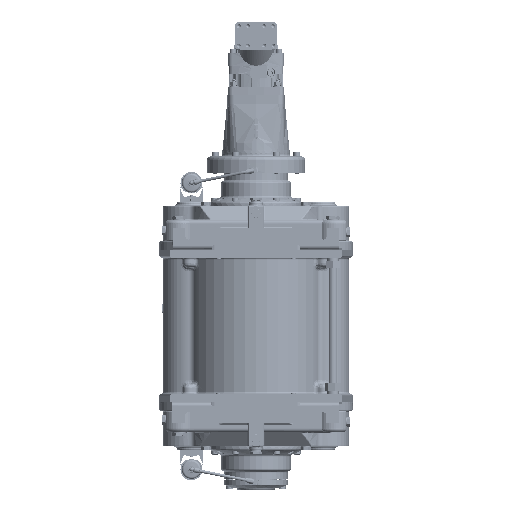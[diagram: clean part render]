
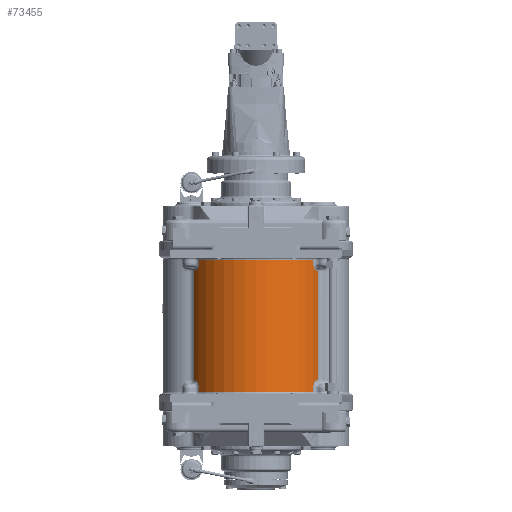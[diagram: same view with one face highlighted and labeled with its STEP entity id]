
A CAD part, front view. The second image highlights one B-rep face of the part: STEP entity #73455.
In plain terms, the highlighted cylindrical face has radius 180.5 mm (diameter 361 mm), a partial arc.
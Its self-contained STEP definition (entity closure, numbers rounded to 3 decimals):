
#5377=FACE_OUTER_BOUND('',#9764,.T.);
#9764=EDGE_LOOP('',(#48566,#48567,#48568,#48569,#48570,#48571,#48572,#48573,
#48574,#48575,#48576,#48577,#48578,#48579,#48580,#48581));
#14417=B_SPLINE_CURVE_WITH_KNOTS('',3,(#108656,#108657,#108658,#108659,
#108660,#108661,#108662),.UNSPECIFIED.,.F.,.F.,(4,1,1,1,4),(-3.142,
-2.244,-1.347,-0.898,0.),
 .UNSPECIFIED.);
#14419=B_SPLINE_CURVE_WITH_KNOTS('',3,(#108822,#108823,#108824,#108825,
#108826,#108827,#108828),.UNSPECIFIED.,.F.,.F.,(4,1,1,1,4),(-3.142,
-2.244,-1.347,-0.898,0.),.UNSPECIFIED.);
#14426=B_SPLINE_CURVE_WITH_KNOTS('',3,(#109054,#109055,#109056,#109057,
#109058,#109059,#109060),.UNSPECIFIED.,.F.,.F.,(4,1,1,1,4),(-3.142,
-2.693,-1.796,-0.898,0.),
 .UNSPECIFIED.);
#14429=B_SPLINE_CURVE_WITH_KNOTS('',3,(#109184,#109185,#109186,#109187,
#109188,#109189,#109190),.UNSPECIFIED.,.F.,.F.,(4,1,1,1,4),(-3.142,
-2.244,-1.347,-0.898,0.),
 .UNSPECIFIED.);
#16314=CIRCLE('',#78780,180.5);
#16392=CIRCLE('',#78903,180.5);
#16485=CIRCLE('',#79065,180.5);
#16492=CIRCLE('',#79079,180.5);
#16510=CIRCLE('',#79106,180.5);
#16520=CIRCLE('',#79120,180.5);
#19835=LINE('',#108665,#24587);
#19845=LINE('',#108842,#24597);
#19853=LINE('',#108965,#24605);
#19859=LINE('',#109074,#24611);
#19865=LINE('',#109191,#24617);
#19866=LINE('',#109192,#24618);
#24587=VECTOR('',#87272,10.);
#24597=VECTOR('',#87332,10.);
#24605=VECTOR('',#87382,10.);
#24611=VECTOR('',#87400,10.);
#24617=VECTOR('',#87446,10.);
#24618=VECTOR('',#87447,10.);
#29439=VERTEX_POINT('',#106924);
#29440=VERTEX_POINT('',#106928);
#29505=VERTEX_POINT('',#107967);
#29506=VERTEX_POINT('',#107971);
#29553=VERTEX_POINT('',#108653);
#29554=VERTEX_POINT('',#108655);
#29563=VERTEX_POINT('',#108765);
#29564=VERTEX_POINT('',#108820);
#29565=VERTEX_POINT('',#108821);
#29573=VERTEX_POINT('',#108910);
#29581=VERTEX_POINT('',#108963);
#29588=VERTEX_POINT('',#109052);
#29589=VERTEX_POINT('',#109053);
#29595=VERTEX_POINT('',#109132);
#29601=VERTEX_POINT('',#109181);
#29602=VERTEX_POINT('',#109183);
#36594=EDGE_CURVE('',#29439,#29440,#16314,.T.);
#36730=EDGE_CURVE('',#29505,#29506,#16392,.T.);
#36858=EDGE_CURVE('',#29553,#29554,#14417,.T.);
#36860=EDGE_CURVE('',#29440,#29553,#19835,.T.);
#36879=EDGE_CURVE('',#29554,#29563,#16485,.T.);
#36883=EDGE_CURVE('',#29564,#29565,#14419,.T.);
#36888=EDGE_CURVE('',#29565,#29439,#19845,.T.);
#36896=EDGE_CURVE('',#29573,#29564,#16492,.T.);
#36913=EDGE_CURVE('',#29573,#29581,#19853,.T.);
#36922=EDGE_CURVE('',#29588,#29589,#14426,.T.);
#36927=EDGE_CURVE('',#29589,#29505,#19859,.T.);
#36933=EDGE_CURVE('',#29595,#29588,#16510,.T.);
#36947=EDGE_CURVE('',#29601,#29581,#16520,.T.);
#36948=EDGE_CURVE('',#29602,#29601,#14429,.T.);
#36949=EDGE_CURVE('',#29506,#29602,#19865,.T.);
#36950=EDGE_CURVE('',#29563,#29595,#19866,.T.);
#48566=ORIENTED_EDGE('',*,*,#36594,.F.);
#48567=ORIENTED_EDGE('',*,*,#36888,.F.);
#48568=ORIENTED_EDGE('',*,*,#36883,.F.);
#48569=ORIENTED_EDGE('',*,*,#36896,.F.);
#48570=ORIENTED_EDGE('',*,*,#36913,.T.);
#48571=ORIENTED_EDGE('',*,*,#36947,.F.);
#48572=ORIENTED_EDGE('',*,*,#36948,.F.);
#48573=ORIENTED_EDGE('',*,*,#36949,.F.);
#48574=ORIENTED_EDGE('',*,*,#36730,.F.);
#48575=ORIENTED_EDGE('',*,*,#36927,.F.);
#48576=ORIENTED_EDGE('',*,*,#36922,.F.);
#48577=ORIENTED_EDGE('',*,*,#36933,.F.);
#48578=ORIENTED_EDGE('',*,*,#36950,.F.);
#48579=ORIENTED_EDGE('',*,*,#36879,.F.);
#48580=ORIENTED_EDGE('',*,*,#36858,.F.);
#48581=ORIENTED_EDGE('',*,*,#36860,.F.);
#69039=CYLINDRICAL_SURFACE('',#79119,180.5);
#73455=ADVANCED_FACE('',(#5377),#69039,.T.);
#78780=AXIS2_PLACEMENT_3D('',#106930,#86670,#86671);
#78903=AXIS2_PLACEMENT_3D('',#107973,#86948,#86949);
#79065=AXIS2_PLACEMENT_3D('',#108770,#87311,#87312);
#79079=AXIS2_PLACEMENT_3D('',#108912,#87345,#87346);
#79106=AXIS2_PLACEMENT_3D('',#109134,#87412,#87413);
#79119=AXIS2_PLACEMENT_3D('',#109180,#87442,#87443);
#79120=AXIS2_PLACEMENT_3D('',#109182,#87444,#87445);
#86670=DIRECTION('center_axis',(0.,0.,
1.));
#86671=DIRECTION('ref_axis',(0.,-1.,0.));
#86948=DIRECTION('center_axis',(0.,0.,
-1.));
#86949=DIRECTION('ref_axis',(0.,-1.,0.));
#87272=DIRECTION('',(0.,0.,-1.));
#87311=DIRECTION('center_axis',(0.,0.,
1.));
#87312=DIRECTION('ref_axis',(0.872,-0.489,0.));
#87332=DIRECTION('',(0.,0.,1.));
#87345=DIRECTION('center_axis',(0.,0.,
1.));
#87346=DIRECTION('ref_axis',(-0.872,-0.489,0.));
#87382=DIRECTION('',(0.,0.,-1.));
#87400=DIRECTION('',(0.,0.,-1.));
#87412=DIRECTION('center_axis',(0.,0.,
-1.));
#87413=DIRECTION('ref_axis',(0.872,-0.489,0.));
#87442=DIRECTION('center_axis',(0.,0.,
-1.));
#87443=DIRECTION('ref_axis',(0.891,-0.454,0.));
#87444=DIRECTION('center_axis',(0.,0.,
-1.));
#87445=DIRECTION('ref_axis',(-0.872,-0.489,0.));
#87446=DIRECTION('',(0.,0.,1.));
#87447=DIRECTION('',(0.,0.,-1.));
#106924=CARTESIAN_POINT('',(-148.662,-102.371,172.));
#106928=CARTESIAN_POINT('',(148.662,-102.371,172.));
#106930=CARTESIAN_POINT('Origin',(0.,0.,
172.));
#107967=CARTESIAN_POINT('',(148.662,-102.371,-172.));
#107971=CARTESIAN_POINT('',(-148.662,-102.371,-172.));
#107973=CARTESIAN_POINT('Origin',(0.,0.,
-172.));
#108653=CARTESIAN_POINT('',(148.662,-102.371,162.));
#108655=CARTESIAN_POINT('',(158.576,-86.221,142.));
#108656=CARTESIAN_POINT('Ctrl Pts',(148.662,-102.371,
162.));
#108657=CARTESIAN_POINT('Ctrl Pts',(148.662,-102.371,
159.007));
#108658=CARTESIAN_POINT('Ctrl Pts',(149.404,-101.308,153.024));
#108659=CARTESIAN_POINT('Ctrl Pts',(151.912,-97.529,
147.031));
#108660=CARTESIAN_POINT('Ctrl Pts',(155.097,-92.393,
143.027));
#108661=CARTESIAN_POINT('Ctrl Pts',(157.221,-88.712,
142.));
#108662=CARTESIAN_POINT('Ctrl Pts',(158.576,-86.221,142.));
#108665=CARTESIAN_POINT('',(148.662,-102.371,0.));
#108765=CARTESIAN_POINT('',(160.817,-81.965,142.));
#108770=CARTESIAN_POINT('Origin',(0.,0.,
142.));
#108820=CARTESIAN_POINT('',(-158.576,-86.221,142.));
#108821=CARTESIAN_POINT('',(-148.662,-102.371,162.));
#108822=CARTESIAN_POINT('Ctrl Pts',(-158.576,-86.221,142.));
#108823=CARTESIAN_POINT('Ctrl Pts',(-157.221,-88.712,
142.));
#108824=CARTESIAN_POINT('Ctrl Pts',(-154.386,-93.625,
143.364));
#108825=CARTESIAN_POINT('Ctrl Pts',(-151.329,-98.412,
148.148));
#108826=CARTESIAN_POINT('Ctrl Pts',(-149.22,-101.57,
154.524));
#108827=CARTESIAN_POINT('Ctrl Pts',(-148.662,-102.371,
159.007));
#108828=CARTESIAN_POINT('Ctrl Pts',(-148.662,-102.371,
162.));
#108842=CARTESIAN_POINT('',(-148.662,-102.371,0.));
#108910=CARTESIAN_POINT('',(-160.817,-81.965,142.));
#108912=CARTESIAN_POINT('Origin',(0.,0.,
142.));
#108963=CARTESIAN_POINT('',(-160.817,-81.965,-142.));
#108965=CARTESIAN_POINT('',(-160.817,-81.965,0.));
#109052=CARTESIAN_POINT('',(158.576,-86.221,-142.));
#109053=CARTESIAN_POINT('',(148.662,-102.371,-162.));
#109054=CARTESIAN_POINT('Ctrl Pts',(158.576,-86.221,-142.));
#109055=CARTESIAN_POINT('Ctrl Pts',(157.898,-87.466,
-142.));
#109056=CARTESIAN_POINT('Ctrl Pts',(155.823,-91.18,-142.5));
#109057=CARTESIAN_POINT('Ctrl Pts',(152.415,-96.776,
-145.827));
#109058=CARTESIAN_POINT('Ctrl Pts',(149.404,-101.307,
-153.025));
#109059=CARTESIAN_POINT('Ctrl Pts',(148.662,-102.371,
-159.007));
#109060=CARTESIAN_POINT('Ctrl Pts',(148.662,-102.371,
-162.));
#109074=CARTESIAN_POINT('',(148.662,-102.371,0.));
#109132=CARTESIAN_POINT('',(160.817,-81.965,-142.));
#109134=CARTESIAN_POINT('Origin',(0.,0.,
-142.));
#109180=CARTESIAN_POINT('Origin',(0.,0.,0.));
#109181=CARTESIAN_POINT('',(-158.576,-86.221,-142.));
#109182=CARTESIAN_POINT('Origin',(0.,0.,
-142.));
#109183=CARTESIAN_POINT('',(-148.662,-102.371,-162.));
#109184=CARTESIAN_POINT('Ctrl Pts',(-148.662,-102.371,
-162.));
#109185=CARTESIAN_POINT('Ctrl Pts',(-148.662,-102.371,
-159.007));
#109186=CARTESIAN_POINT('Ctrl Pts',(-149.404,-101.308,-153.024));
#109187=CARTESIAN_POINT('Ctrl Pts',(-151.912,-97.529,
-147.031));
#109188=CARTESIAN_POINT('Ctrl Pts',(-155.097,-92.393,
-143.027));
#109189=CARTESIAN_POINT('Ctrl Pts',(-157.221,-88.712,
-142.));
#109190=CARTESIAN_POINT('Ctrl Pts',(-158.576,-86.221,
-142.));
#109191=CARTESIAN_POINT('',(-148.662,-102.371,0.));
#109192=CARTESIAN_POINT('',(160.817,-81.965,0.));
